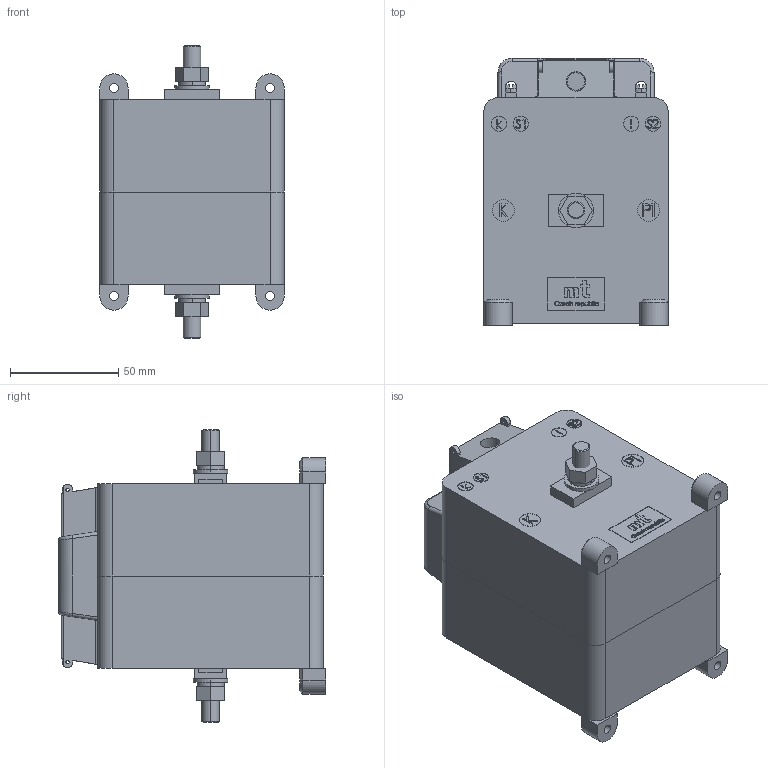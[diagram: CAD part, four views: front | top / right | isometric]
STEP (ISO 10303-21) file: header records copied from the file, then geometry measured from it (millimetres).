
FILE_DESCRIPTION (( 'STEP AP214' ), '1' );
FILE_NAME ('CLA 1.3 S.STEP', '2024-09-30T18:09:59', ( '' ), ( '' ), 'SwSTEP 2.0', 'SolidWorks 2024', '' );
FILE_SCHEMA (( 'AUTOMOTIVE_DESIGN' ));
Length unit declared in the file: millimetre
Products named in the file (14): Secondary terminal cover CLA; Secondary terminal; CLA 1.3 S; Nut M8; Primary terminal CLA 1.x S; Back plastic case CLA 1.3; Type label CLA 1.3 S; Screw M8; Flat washer D8; Plastic mounting foot; Screw M5x8; Front plastic case CLA 1.3; Spring washer D8; Rivet 60
Assembly tree (25 placements, depth 2):
  CLA 1.3 S
    Front plastic case CLA 1.3
    Back plastic case CLA 1.3
    Type label CLA 1.3 S
    Secondary terminal cover CLA
    Plastic mounting foot  x4
    Secondary terminal  x2
    Screw M5x8  x2
    Rivet 60  x3
    Primary terminal CLA 1.x S  x2
    Flat washer D8  x2
    Spring washer D8  x2
    Nut M8  x2
    Screw M8  x2
Bounding box: 85 x 123.2 x 135 mm (x, y, z)
Volume: 795646.6 mm3; surface area: 111144.9 mm2
Topology: 25 solids, 28 shells, 1359 faces, 3530 edges, 2328 vertices
Faces by surface type: plane 736, bspline 332, cylinder 227, cone 44, torus 12, sphere 8
Entity records: 51450 total; most frequent: CARTESIAN_POINT 24395, ORIENTED_EDGE 5910, DIRECTION 4177, EDGE_CURVE 2955, VERTEX_POINT 1958, VECTOR 1929, LINE 1929, EDGE_LOOP 1249
